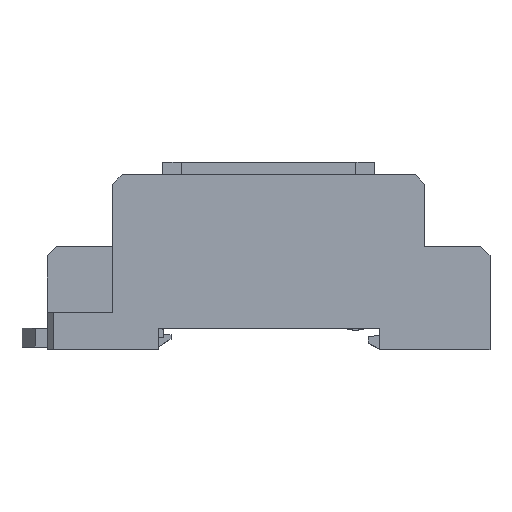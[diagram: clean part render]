
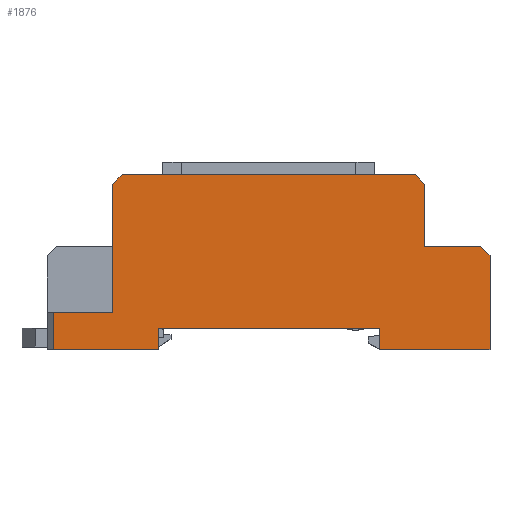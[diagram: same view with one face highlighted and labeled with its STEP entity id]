
A CAD part, top view. The second image highlights one B-rep face of the part: STEP entity #1876.
In plain terms, the highlighted planar face has unit normal (0, 0, 1).
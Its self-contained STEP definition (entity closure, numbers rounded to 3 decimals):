
#1876=ADVANCED_FACE('',(#3903),#2964,.F.);
#2964=PLANE('',#23466);
#3903=FACE_OUTER_BOUND('',#5137,.T.);
#5137=EDGE_LOOP('',(#12665,#12666,#12667,#12668,#12669,#12670,#12671,#12672,
#12673,#12674,#12675,#12676,#12677,#12678,#12679));
#6765=LINE('',#40075,#9138);
#6781=LINE('',#40112,#9154);
#6793=LINE('',#40135,#9166);
#6799=LINE('',#40147,#9172);
#6832=LINE('',#40211,#9205);
#6833=LINE('',#40214,#9206);
#6834=LINE('',#40216,#9207);
#6835=LINE('',#40218,#9208);
#6836=LINE('',#40220,#9209);
#6837=LINE('',#40221,#9210);
#6838=LINE('',#40222,#9211);
#6839=LINE('',#40224,#9212);
#6840=LINE('',#40226,#9213);
#6841=LINE('',#40228,#9214);
#6842=LINE('',#40230,#9215);
#9138=VECTOR('',#26378,1.);
#9154=VECTOR('',#26400,1.);
#9166=VECTOR('',#26414,1.);
#9172=VECTOR('',#26422,1.);
#9205=VECTOR('',#26469,1.);
#9206=VECTOR('',#26470,1.);
#9207=VECTOR('',#26471,1.);
#9208=VECTOR('',#26472,1.);
#9209=VECTOR('',#26473,1.);
#9210=VECTOR('',#26474,1.);
#9211=VECTOR('',#26475,1.);
#9212=VECTOR('',#26476,1.);
#9213=VECTOR('',#26477,1.);
#9214=VECTOR('',#26478,1.);
#9215=VECTOR('',#26479,1.);
#12665=ORIENTED_EDGE('',*,*,#20599,.F.);
#12666=ORIENTED_EDGE('',*,*,#20600,.T.);
#12667=ORIENTED_EDGE('',*,*,#20601,.F.);
#12668=ORIENTED_EDGE('',*,*,#20602,.F.);
#12669=ORIENTED_EDGE('',*,*,#20603,.F.);
#12670=ORIENTED_EDGE('',*,*,#20530,.T.);
#12671=ORIENTED_EDGE('',*,*,#20566,.T.);
#12672=ORIENTED_EDGE('',*,*,#20604,.T.);
#12673=ORIENTED_EDGE('',*,*,#20560,.F.);
#12674=ORIENTED_EDGE('',*,*,#20548,.T.);
#12675=ORIENTED_EDGE('',*,*,#20605,.F.);
#12676=ORIENTED_EDGE('',*,*,#20606,.T.);
#12677=ORIENTED_EDGE('',*,*,#20607,.F.);
#12678=ORIENTED_EDGE('',*,*,#20608,.F.);
#12679=ORIENTED_EDGE('',*,*,#20609,.T.);
#18138=VERTEX_POINT('',#40074);
#18139=VERTEX_POINT('',#40076);
#18156=VERTEX_POINT('',#40111);
#18157=VERTEX_POINT('',#40113);
#18167=VERTEX_POINT('',#40136);
#18171=VERTEX_POINT('',#40146);
#18196=VERTEX_POINT('',#40212);
#18197=VERTEX_POINT('',#40213);
#18198=VERTEX_POINT('',#40215);
#18199=VERTEX_POINT('',#40217);
#18200=VERTEX_POINT('',#40219);
#18201=VERTEX_POINT('',#40223);
#18202=VERTEX_POINT('',#40225);
#18203=VERTEX_POINT('',#40227);
#18204=VERTEX_POINT('',#40229);
#20530=EDGE_CURVE('',#18139,#18138,#6765,.T.);
#20548=EDGE_CURVE('',#18157,#18156,#6781,.T.);
#20560=EDGE_CURVE('',#18157,#18167,#6793,.T.);
#20566=EDGE_CURVE('',#18138,#18171,#6799,.T.);
#20599=EDGE_CURVE('',#18196,#18197,#6832,.T.);
#20600=EDGE_CURVE('',#18196,#18198,#6833,.T.);
#20601=EDGE_CURVE('',#18199,#18198,#6834,.T.);
#20602=EDGE_CURVE('',#18200,#18199,#6835,.T.);
#20603=EDGE_CURVE('',#18139,#18200,#6836,.T.);
#20604=EDGE_CURVE('',#18171,#18167,#6837,.T.);
#20605=EDGE_CURVE('',#18201,#18156,#6838,.T.);
#20606=EDGE_CURVE('',#18201,#18202,#6839,.T.);
#20607=EDGE_CURVE('',#18203,#18202,#6840,.T.);
#20608=EDGE_CURVE('',#18204,#18203,#6841,.T.);
#20609=EDGE_CURVE('',#18204,#18197,#6842,.T.);
#23466=AXIS2_PLACEMENT_3D('',#40231,#26480,#26481);
#26378=DIRECTION('',(1.,0.,0.));
#26400=DIRECTION('',(1.,0.,0.));
#26414=DIRECTION('',(0.,1.,0.));
#26422=DIRECTION('',(0.,1.,0.));
#26469=DIRECTION('',(1.,0.,0.));
#26470=DIRECTION('',(-0.707,-0.707,0.));
#26471=DIRECTION('',(0.,1.,0.));
#26472=DIRECTION('',(1.,0.,0.));
#26473=DIRECTION('',(0.,1.,0.));
#26474=DIRECTION('',(1.,0.,0.));
#26475=DIRECTION('',(0.,-1.,0.));
#26476=DIRECTION('',(-0.707,0.707,0.));
#26477=DIRECTION('',(1.,0.,0.));
#26478=DIRECTION('',(0.,-1.,0.));
#26479=DIRECTION('',(-0.707,0.707,0.));
#26480=DIRECTION('',(0.,0.,-1.));
#26481=DIRECTION('',(-1.,0.,0.));
#40074=CARTESIAN_POINT('',(17.8,0.,0.));
#40075=CARTESIAN_POINT('',(0.,0.,0.));
#40076=CARTESIAN_POINT('',(1.,0.,0.));
#40111=CARTESIAN_POINT('',(71.,0.,0.));
#40112=CARTESIAN_POINT('',(0.,0.,0.));
#40113=CARTESIAN_POINT('',(53.2,0.,0.));
#40135=CARTESIAN_POINT('',(53.2,0.,0.));
#40136=CARTESIAN_POINT('',(53.2,3.4,0.));
#40146=CARTESIAN_POINT('',(17.8,3.4,0.));
#40147=CARTESIAN_POINT('',(17.8,0.,0.));
#40211=CARTESIAN_POINT('',(2.,28.,0.));
#40212=CARTESIAN_POINT('',(12.,28.,0.));
#40213=CARTESIAN_POINT('',(59.,28.,0.));
#40214=CARTESIAN_POINT('',(12.,28.,0.));
#40215=CARTESIAN_POINT('',(10.5,26.5,0.));
#40216=CARTESIAN_POINT('',(10.5,26.,0.));
#40217=CARTESIAN_POINT('',(10.5,6.,0.));
#40218=CARTESIAN_POINT('',(2.,6.,0.));
#40219=CARTESIAN_POINT('',(1.,6.,0.));
#40220=CARTESIAN_POINT('',(1.,0.,0.));
#40221=CARTESIAN_POINT('',(17.8,3.4,0.));
#40222=CARTESIAN_POINT('',(71.,14.5,0.));
#40223=CARTESIAN_POINT('',(71.,15.,0.));
#40224=CARTESIAN_POINT('',(71.,15.,0.));
#40225=CARTESIAN_POINT('',(69.5,16.5,0.));
#40226=CARTESIAN_POINT('',(2.,16.5,0.));
#40227=CARTESIAN_POINT('',(60.5,16.5,0.));
#40228=CARTESIAN_POINT('',(60.5,14.5,0.));
#40229=CARTESIAN_POINT('',(60.5,26.5,0.));
#40230=CARTESIAN_POINT('',(60.5,26.5,0.));
#40231=CARTESIAN_POINT('',(2.,14.5,0.));
